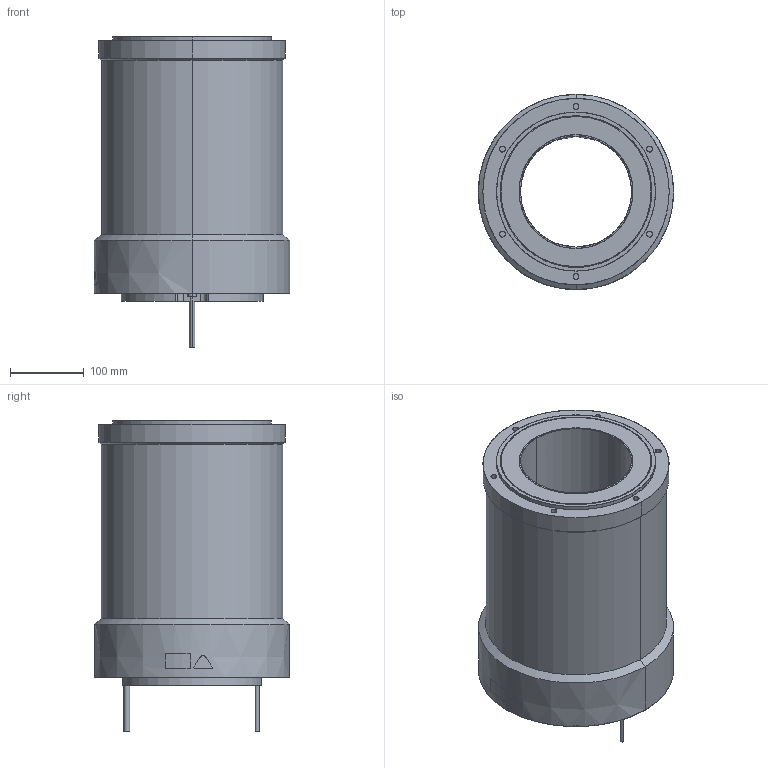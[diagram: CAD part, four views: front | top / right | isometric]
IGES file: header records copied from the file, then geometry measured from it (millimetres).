
Start section: SolidWorks IGES file using analytic representation for surfaces
Bounding box: 264.08 x 264 x 420 mm (x, y, z)
Surface area: 538284.8 mm2 (no closed solid volume)
Topology: 0 solids, 0 shells, 171 faces, 3659 edges, 3659 vertices
Faces by surface type: revolution 107, bspline 64
